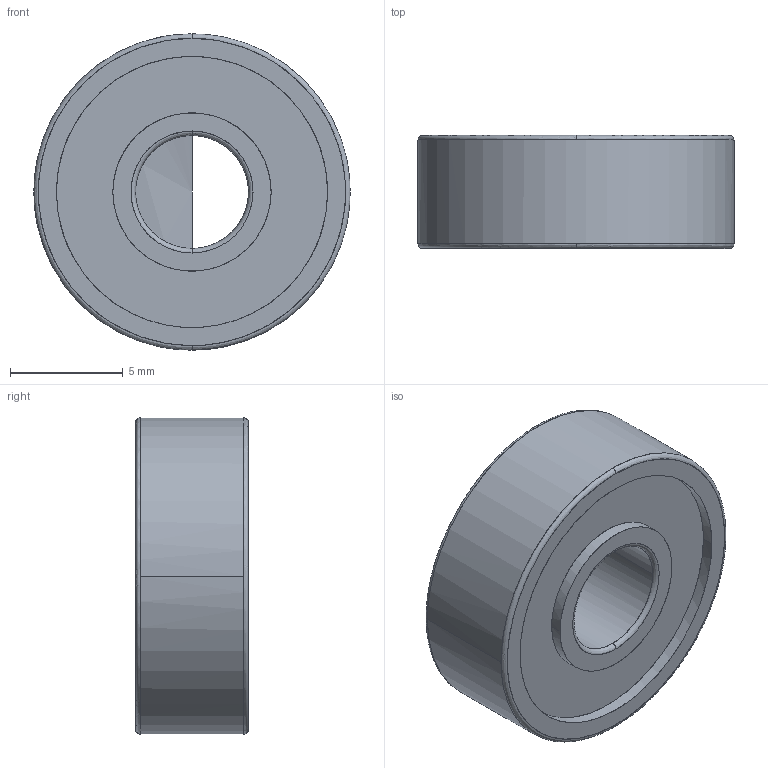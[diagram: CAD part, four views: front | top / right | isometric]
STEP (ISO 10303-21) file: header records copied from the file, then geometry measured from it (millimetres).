
FILE_DESCRIPTION(/* description */ (''),/* implementation_level */ '2;1');
FILE_NAME(/* name */ '7.x-cart#7.2#B605ZZ',/* time_stamp */ '2014-12-01T20:17:25+01:00',/* author */ (''),/* organization */ (''),/* preprocessor_version */ 'ST-DEVELOPER v14',/* originating_system */ '',/* authorisation */ '');
FILE_SCHEMA (('AUTOMOTIVE_DESIGN'));
Length unit declared in the file: millimetre
Products named in the file (2): Document; ball bearing 5x14x5mm
Assembly tree (1 placements, depth 2):
  Document
    ball bearing 5x14x5mm
Bounding box: 14 x 5 x 14 mm (x, y, z)
Surface area: 617.2 mm2 (no closed solid volume)
Topology: 0 solids, 26 shells, 26 faces, 92 edges, 91 vertices
Faces by surface type: bspline 20, plane 6
Entity records: 2728 total; most frequent: CARTESIAN_POINT 1638, B_SPLINE_CURVE_WITH_KNOTS 103, ORIENTED_EDGE 91, PCURVE 91, DEFINITIONAL_REPRESENTATION 91, SURFACE_CURVE 91, EDGE_CURVE 91, VERTEX_POINT 91
